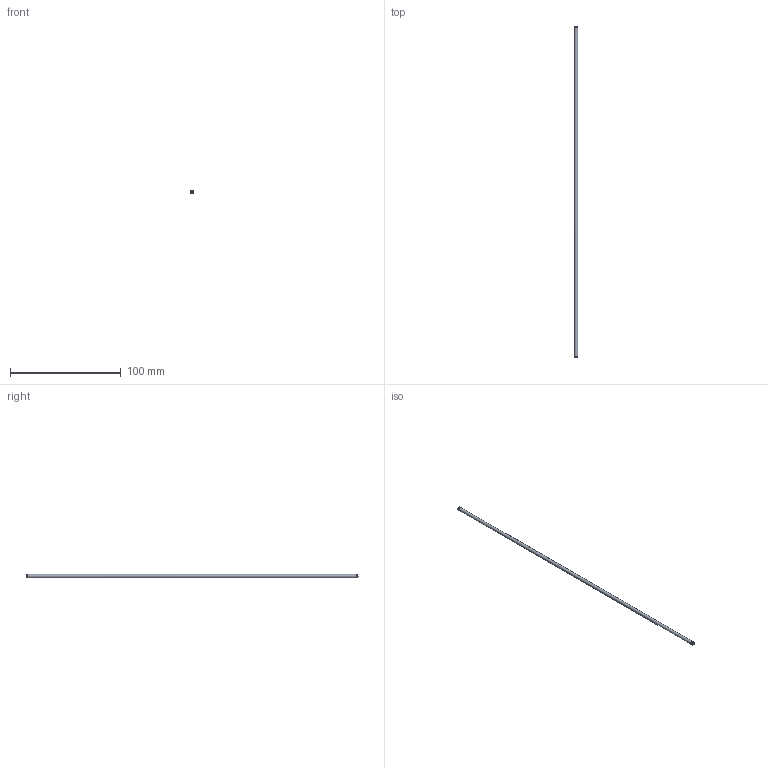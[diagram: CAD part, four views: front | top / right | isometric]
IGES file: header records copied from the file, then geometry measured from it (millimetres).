
Global section: file name: RI03300; native system: Autodesk Inventor 2026; preprocessor: unknown; author: J. Iwanek; date: 20261007.104405; units: millimetre
Bounding box: 3 x 299.99 x 3 mm (x, y, z)
Volume: 974.4 mm3; surface area: 4895.9 mm2
Topology: 1 solids, 1 shells, 8 faces, 18 edges, 9 vertices
Faces by surface type: bspline 8
